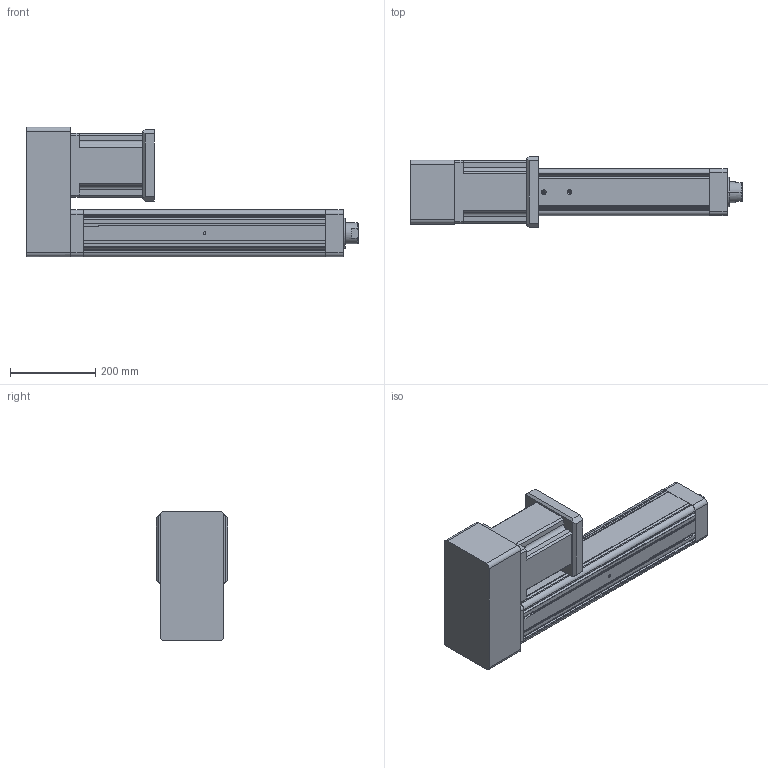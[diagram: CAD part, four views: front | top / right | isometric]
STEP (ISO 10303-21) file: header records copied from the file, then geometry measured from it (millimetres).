
FILE_DESCRIPTION (( 'STEP AP203' ), '1' );
FILE_NAME ('YRJ110-L400-H1K2.STEP', '2020-01-04T05:51:32', ( 'User' ), ( 'China' ), 'SwSTEP 2.0', 'SolidWorks 2016', '' );
FILE_SCHEMA (( 'CONFIG_CONTROL_DESIGN' ));
Length unit declared in the file: millimetre
Products named in the file (7): 142熬厒儂; K2-110; YRJ110-L400-H1K2; 095-100俴最倰第; H1-110-1; H1-110-2; 萇儂碟-110
Assembly tree (6 placements, depth 2):
  YRJ110-L400-H1K2
    095-100俴最倰第
    H1-110-1
    H1-110-2
    萇儂碟-110
    142熬厒儂
    K2-110
Bounding box: 781 x 168 x 305.5 mm (x, y, z)
Volume: 12139137 mm3; surface area: 977240 mm2
Topology: 6 solids, 6 shells, 311 faces, 854 edges, 545 vertices
Faces by surface type: plane 162, cylinder 114, cone 35
Entity records: 10772 total; most frequent: CARTESIAN_POINT 2035, DIRECTION 1691, ORIENTED_EDGE 1660, EDGE_CURVE 830, LINE 565, VECTOR 565, AXIS2_PLACEMENT_3D 563, VERTEX_POINT 545
